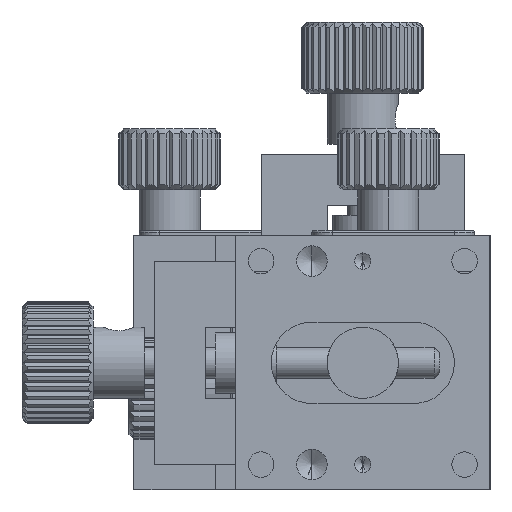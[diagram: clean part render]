
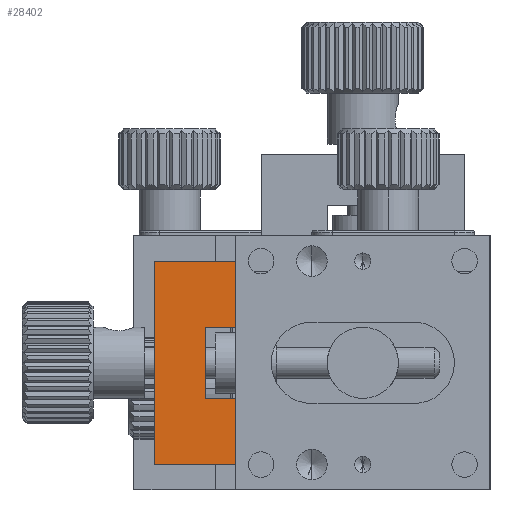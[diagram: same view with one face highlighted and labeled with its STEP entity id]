
A CAD part, front view. The second image highlights one B-rep face of the part: STEP entity #28402.
In plain terms, the highlighted planar face has unit normal (0, -1, 0).
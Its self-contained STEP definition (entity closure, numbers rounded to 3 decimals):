
#44 = CARTESIAN_POINT ( 'NONE',  ( 8., 0., 3.5 ) ) ;
#655 = LINE ( 'NONE', #26080, #8503 ) ;
#824 = EDGE_CURVE ( 'NONE', #24117, #21750, #5078, .T. ) ;
#1074 = EDGE_CURVE ( 'NONE', #1329, #20503, #16083, .T. ) ;
#1329 = VERTEX_POINT ( 'NONE', #6317 ) ;
#1339 = VERTEX_POINT ( 'NONE', #14368 ) ;
#2405 = ORIENTED_EDGE ( 'NONE', *, *, #5383, .F. ) ;
#2411 = PLANE ( 'NONE',  #24144 ) ;
#3019 = VECTOR ( 'NONE', #20433, 1000. ) ;
#3233 = LINE ( 'NONE', #5293, #25207 ) ;
#3394 = LINE ( 'NONE', #8742, #12660 ) ;
#3611 = DIRECTION ( 'NONE',  ( 0., 0., -1. ) ) ;
#4786 = EDGE_LOOP ( 'NONE', ( #6840, #14990, #2405, #11327, #17004, #5838, #6872, #19789 ) ) ;
#5078 = LINE ( 'NONE', #26926, #3019 ) ;
#5293 = CARTESIAN_POINT ( 'NONE',  ( 8., 0., -10. ) ) ;
#5322 = CARTESIAN_POINT ( 'NONE',  ( 5., 0., -3.5 ) ) ;
#5383 = EDGE_CURVE ( 'NONE', #24117, #28279, #655, .T. ) ;
#5508 = LINE ( 'NONE', #21334, #18289 ) ;
#5838 = ORIENTED_EDGE ( 'NONE', *, *, #19549, .T. ) ;
#5944 = DIRECTION ( 'NONE',  ( 0., 0., -1. ) ) ;
#6317 = CARTESIAN_POINT ( 'NONE',  ( 8., 0., -3.5 ) ) ;
#6744 = VERTEX_POINT ( 'NONE', #20887 ) ;
#6840 = ORIENTED_EDGE ( 'NONE', *, *, #1074, .F. ) ;
#6872 = ORIENTED_EDGE ( 'NONE', *, *, #19365, .T. ) ;
#7581 = CARTESIAN_POINT ( 'NONE',  ( 8., 0., -10. ) ) ;
#7747 = CARTESIAN_POINT ( 'NONE',  ( 8., 0., -10. ) ) ;
#8503 = VECTOR ( 'NONE', #5944, 1000. ) ;
#8657 = DIRECTION ( 'NONE',  ( -1., 0., 0. ) ) ;
#8742 = CARTESIAN_POINT ( 'NONE',  ( 8., 0., 10. ) ) ;
#9183 = DIRECTION ( 'NONE',  ( 0., 0., -1. ) ) ;
#9570 = VECTOR ( 'NONE', #27128, 1000. ) ;
#9947 = EDGE_CURVE ( 'NONE', #20503, #6744, #3233, .T. ) ;
#10085 = VERTEX_POINT ( 'NONE', #18443 ) ;
#11112 = CARTESIAN_POINT ( 'NONE',  ( 5., 0., 3.5 ) ) ;
#11327 = ORIENTED_EDGE ( 'NONE', *, *, #824, .T. ) ;
#11907 = DIRECTION ( 'NONE',  ( -1., 0., 0. ) ) ;
#12660 = VECTOR ( 'NONE', #8657, 1000. ) ;
#14166 = CARTESIAN_POINT ( 'NONE',  ( 0., 0., -10. ) ) ;
#14368 = CARTESIAN_POINT ( 'NONE',  ( 0., 0., 10. ) ) ;
#14990 = ORIENTED_EDGE ( 'NONE', *, *, #19353, .F. ) ;
#15430 = VECTOR ( 'NONE', #22822, 1000. ) ;
#16083 = LINE ( 'NONE', #20187, #23969 ) ;
#16144 = LINE ( 'NONE', #14166, #9570 ) ;
#16324 = DIRECTION ( 'NONE',  ( 0., 1., 0. ) ) ;
#17004 = ORIENTED_EDGE ( 'NONE', *, *, #26831, .F. ) ;
#18289 = VECTOR ( 'NONE', #3611, 1000. ) ;
#18443 = CARTESIAN_POINT ( 'NONE',  ( 8., 0., 10. ) ) ;
#19353 = EDGE_CURVE ( 'NONE', #28279, #1329, #21648, .T. ) ;
#19365 = EDGE_CURVE ( 'NONE', #1339, #6744, #16144, .T. ) ;
#19549 = EDGE_CURVE ( 'NONE', #10085, #1339, #3394, .T. ) ;
#19789 = ORIENTED_EDGE ( 'NONE', *, *, #9947, .F. ) ;
#20187 = CARTESIAN_POINT ( 'NONE',  ( 8., 0., -10. ) ) ;
#20433 = DIRECTION ( 'NONE',  ( 1., 0., 0. ) ) ;
#20503 = VERTEX_POINT ( 'NONE', #7747 ) ;
#20887 = CARTESIAN_POINT ( 'NONE',  ( 0., 0., -10. ) ) ;
#21334 = CARTESIAN_POINT ( 'NONE',  ( 8., 0., -10. ) ) ;
#21648 = LINE ( 'NONE', #5322, #15430 ) ;
#21750 = VERTEX_POINT ( 'NONE', #44 ) ;
#22822 = DIRECTION ( 'NONE',  ( 1., 0., 0. ) ) ;
#23969 = VECTOR ( 'NONE', #9183, 1000. ) ;
#24117 = VERTEX_POINT ( 'NONE', #11112 ) ;
#24144 = AXIS2_PLACEMENT_3D ( 'NONE', #7581, #16324, #24385 ) ;
#24385 = DIRECTION ( 'NONE',  ( 0., 0., 1. ) ) ;
#25207 = VECTOR ( 'NONE', #11907, 1000. ) ;
#26080 = CARTESIAN_POINT ( 'NONE',  ( 5., 0., -3.5 ) ) ;
#26193 = CARTESIAN_POINT ( 'NONE',  ( 5., 0., -3.5 ) ) ;
#26781 = FACE_OUTER_BOUND ( 'NONE', #4786, .T. ) ;
#26831 = EDGE_CURVE ( 'NONE', #10085, #21750, #5508, .T. ) ;
#26926 = CARTESIAN_POINT ( 'NONE',  ( 5., 0., 3.5 ) ) ;
#27128 = DIRECTION ( 'NONE',  ( 0., 0., -1. ) ) ;
#28279 = VERTEX_POINT ( 'NONE', #26193 ) ;
#28402 = ADVANCED_FACE ( 'NONE', ( #26781 ), #2411, .F. ) ;
